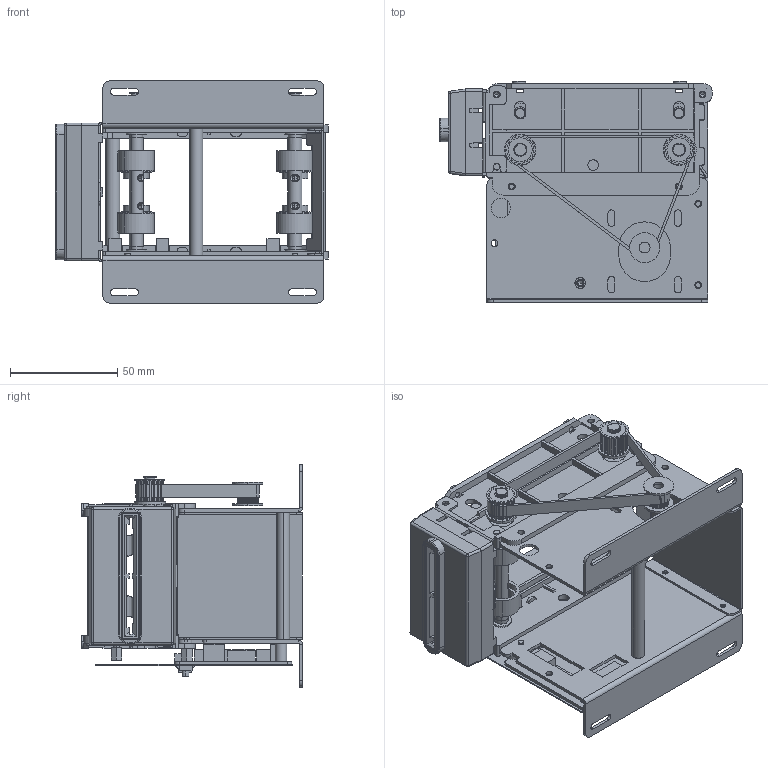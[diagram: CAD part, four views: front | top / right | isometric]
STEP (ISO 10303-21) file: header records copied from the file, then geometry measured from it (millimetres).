
FILE_DESCRIPTION((''),'2;1');
FILE_NAME('D3000-S','2026-05-21T11:43:06',('YFB-05'),(''),'CREO PARAMETRIC BY PTC INC, 2025102','CREO PARAMETRIC BY PTC INC, 2025102','');
FILE_SCHEMA(('CONFIG_CONTROL_DESIGN'));
Products named in the file (1): D3000-S
Bounding box: 127 x 103 x 103.5 mm (x, y, z)
Surface area: 164915 mm2 (no closed solid volume)
Topology: 0 solids, 54 shells, 2247 faces, 6137 edges, 4104 vertices
Faces by surface type: plane 1322, cylinder 803, cone 78, bspline 20, torus 20, sphere 4
Entity records: 74068 total; most frequent: CARTESIAN_POINT 15267, DIRECTION 12286, ORIENTED_EDGE 12194, EDGE_CURVE 6115, AXIS2_PLACEMENT_3D 4130, VERTEX_POINT 4104, VECTOR 4026, LINE 4026
